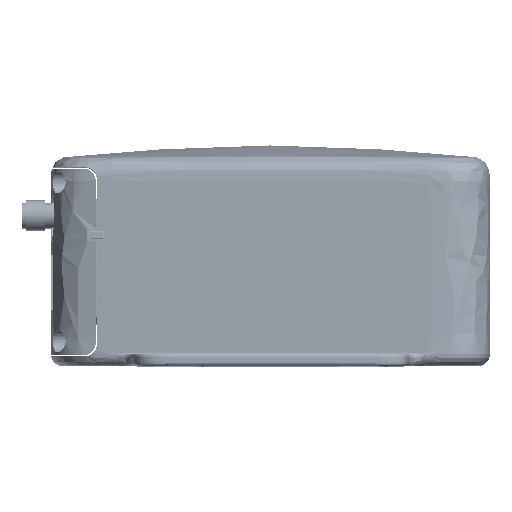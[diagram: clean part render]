
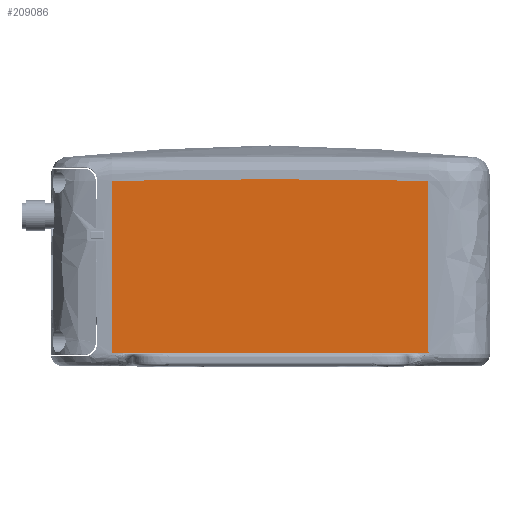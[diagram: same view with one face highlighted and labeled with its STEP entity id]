
A CAD part, top view. The second image highlights one B-rep face of the part: STEP entity #209086.
In plain terms, the highlighted planar face has unit normal (0, 0, 1).
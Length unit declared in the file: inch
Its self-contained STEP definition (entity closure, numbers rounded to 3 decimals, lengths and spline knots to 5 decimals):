
#9287 = EDGE_CURVE ( 'NONE', #165246, #239749, #161099, .T. ) ;
#21842 = EDGE_CURVE ( 'NONE', #154655, #88295, #293417, .T. ) ;
#21942 = B_SPLINE_CURVE_WITH_KNOTS ( 'NONE', 3,
 ( #393467, #431390, #186177, #434924, #306851, #187956, #310433, #65453 ),
 .UNSPECIFIED., .F., .F.,
 ( 4, 1, 1, 2, 4 ),
 ( 0., 0.27498, 0.41247, 0.48122, 0.54996 ),
 .UNSPECIFIED. ) ;
#55074 = DIRECTION ( 'NONE',  ( -1., 0., 0. ) ) ;
#60840 = EDGE_CURVE ( 'NONE', #502391, #506631, #79746, .T. ) ;
#65453 = CARTESIAN_POINT ( 'NONE',  ( -1.303, -0.74496, 1.185 ) ) ;
#74651 = CARTESIAN_POINT ( 'NONE',  ( -1.303, -0.74496, 1.185 ) ) ;
#79746 = B_SPLINE_CURVE_WITH_KNOTS ( 'NONE', 3,
 ( #323279, #159275, #251190, #373668 ),
 .UNSPECIFIED., .F., .F.,
 ( 4, 4 ),
 ( 0.11204, 0.93477 ),
 .UNSPECIFIED. ) ;
#84132 = ORIENTED_EDGE ( 'NONE', *, *, #493383, .T. ) ;
#88295 = VERTEX_POINT ( 'NONE', #253053 ) ;
#99539 = CARTESIAN_POINT ( 'NONE',  ( 1.29789, -0.74292, 1.185 ) ) ;
#101279 = CARTESIAN_POINT ( 'NONE',  ( 1.29377, -0.74112, 1.185 ) ) ;
#106534 = DIRECTION ( 'NONE',  ( 1., 0., 0. ) ) ;
#108099 = CARTESIAN_POINT ( 'NONE',  ( 1.29, -0.2729, 1.185 ) ) ;
#115582 = CARTESIAN_POINT ( 'NONE',  ( -0.37409, 0.67274, 1.185 ) ) ;
#122365 = EDGE_CURVE ( 'NONE', #88295, #502391, #435655, .T. ) ;
#132390 = CARTESIAN_POINT ( 'NONE',  ( -1.79, 0.85, 1.185 ) ) ;
#151179 = CARTESIAN_POINT ( 'NONE',  ( 1.29, 0.65951, 1.185 ) ) ;
#154655 = VERTEX_POINT ( 'NONE', #528500 ) ;
#159275 = CARTESIAN_POINT ( 'NONE',  ( -1.29, 0.19332, 1.185 ) ) ;
#161099 = LINE ( 'NONE', #439925, #457538 ) ;
#165246 = VERTEX_POINT ( 'NONE', #74651 ) ;
#181605 = ORIENTED_EDGE ( 'NONE', *, *, #9287, .T. ) ;
#186177 = CARTESIAN_POINT ( 'NONE',  ( -1.29376, -0.74112, 1.185 ) ) ;
#187956 = CARTESIAN_POINT ( 'NONE',  ( -1.30128, -0.74431, 1.185 ) ) ;
#209086 = ADVANCED_FACE ( 'NONE', ( #269284 ), #453268, .F. ) ;
#223837 = CARTESIAN_POINT ( 'NONE',  ( 1.30131, -0.74432, 1.185 ) ) ;
#229221 = CARTESIAN_POINT ( 'NONE',  ( 1.29124, -0.73985, 1.185 ) ) ;
#231794 = CARTESIAN_POINT ( 'NONE',  ( 1.303, -0.74496, 1.185 ) ) ;
#239749 = VERTEX_POINT ( 'NONE', #231794 ) ;
#240076 = CARTESIAN_POINT ( 'NONE',  ( -1.29, 0.65953, 1.185 ) ) ;
#251190 = CARTESIAN_POINT ( 'NONE',  ( -1.29, -0.2729, 1.185 ) ) ;
#253053 = CARTESIAN_POINT ( 'NONE',  ( 1.29, 0.65951, 1.185 ) ) ;
#265184 = CARTESIAN_POINT ( 'NONE',  ( 1.29991, -0.74375, 1.185 ) ) ;
#269284 = FACE_OUTER_BOUND ( 'NONE', #345341, .T. ) ;
#270603 = AXIS2_PLACEMENT_3D ( 'NONE', #132390, #503690, #55074 ) ;
#271825 = EDGE_CURVE ( 'NONE', #239749, #154655, #391827, .T. ) ;
#272016 = CARTESIAN_POINT ( 'NONE',  ( 1.29, -0.73911, 1.185 ) ) ;
#279546 = CARTESIAN_POINT ( 'NONE',  ( 1.04682, 0.66392, 1.185 ) ) ;
#283112 = CARTESIAN_POINT ( 'NONE',  ( 0.19122, 0.67239, 1.185 ) ) ;
#293417 = B_SPLINE_CURVE_WITH_KNOTS ( 'NONE', 3,
 ( #272016, #108099, #398260, #151179 ),
 .UNSPECIFIED., .F., .F.,
 ( 4, 4 ),
 ( 0.06523, 0.88795 ),
 .UNSPECIFIED. ) ;
#306851 = CARTESIAN_POINT ( 'NONE',  ( -1.29988, -0.74374, 1.185 ) ) ;
#310433 = CARTESIAN_POINT ( 'NONE',  ( -1.30225, -0.7447, 1.185 ) ) ;
#323279 = CARTESIAN_POINT ( 'NONE',  ( -1.29, 0.65953, 1.185 ) ) ;
#326327 = CARTESIAN_POINT ( 'NONE',  ( -0.80409, 0.66834, 1.185 ) ) ;
#345341 = EDGE_LOOP ( 'NONE', ( #84132, #181605, #458390, #439645, #373775, #429776 ) ) ;
#348044 = CARTESIAN_POINT ( 'NONE',  ( 1.303, -0.74496, 1.185 ) ) ;
#373668 = CARTESIAN_POINT ( 'NONE',  ( -1.29, -0.73911, 1.185 ) ) ;
#373775 = ORIENTED_EDGE ( 'NONE', *, *, #122365, .T. ) ;
#391827 = B_SPLINE_CURVE_WITH_KNOTS ( 'NONE', 3,
 ( #348044, #512075, #223837, #265184, #99539, #101279, #229221, #517441 ),
 .UNSPECIFIED., .F., .F.,
 ( 4, 2, 1, 1, 4 ),
 ( 0.44892, 0.51781, 0.58669, 0.72446, 1. ),
 .UNSPECIFIED. ) ;
#393467 = CARTESIAN_POINT ( 'NONE',  ( -1.29, -0.73911, 1.185 ) ) ;
#398260 = CARTESIAN_POINT ( 'NONE',  ( 1.29, 0.1933, 1.185 ) ) ;
#405832 = CARTESIAN_POINT ( 'NONE',  ( 0.70318, 0.66887, 1.185 ) ) ;
#429776 = ORIENTED_EDGE ( 'NONE', *, *, #60840, .T. ) ;
#431390 = CARTESIAN_POINT ( 'NONE',  ( -1.29124, -0.73984, 1.185 ) ) ;
#434924 = CARTESIAN_POINT ( 'NONE',  ( -1.29787, -0.74291, 1.185 ) ) ;
#435655 = B_SPLINE_CURVE_WITH_KNOTS ( 'NONE', 3,
 ( #447252, #279546, #405832, #488657, #283112, #490408, #486852, #115582, #326327, #240076 ),
 .UNSPECIFIED., .F., .F.,
 ( 4, 1, 1, 2, 2, 4 ),
 ( 0., 0.25, 0.375, 0.4375, 0.5, 1. ),
 .UNSPECIFIED. ) ;
#439645 = ORIENTED_EDGE ( 'NONE', *, *, #21842, .T. ) ;
#439925 = CARTESIAN_POINT ( 'NONE',  ( 1.31172, -0.745, 1.185 ) ) ;
#447252 = CARTESIAN_POINT ( 'NONE',  ( 1.29, 0.65951, 1.185 ) ) ;
#453268 = PLANE ( 'NONE',  #270603 ) ;
#454114 = CARTESIAN_POINT ( 'NONE',  ( -1.29, -0.73911, 1.185 ) ) ;
#457538 = VECTOR ( 'NONE', #106534, 39.37008 ) ;
#458390 = ORIENTED_EDGE ( 'NONE', *, *, #271825, .T. ) ;
#486852 = CARTESIAN_POINT ( 'NONE',  ( 0.04676, 0.67274, 1.185 ) ) ;
#488657 = CARTESIAN_POINT ( 'NONE',  ( 0.33926, 0.67177, 1.185 ) ) ;
#490408 = CARTESIAN_POINT ( 'NONE',  ( 0.09429, 0.67267, 1.185 ) ) ;
#493383 = EDGE_CURVE ( 'NONE', #506631, #165246, #21942, .T. ) ;
#502391 = VERTEX_POINT ( 'NONE', #526006 ) ;
#503690 = DIRECTION ( 'NONE',  ( 0., 0., -1. ) ) ;
#506631 = VERTEX_POINT ( 'NONE', #454114 ) ;
#512075 = CARTESIAN_POINT ( 'NONE',  ( 1.30225, -0.74471, 1.185 ) ) ;
#517441 = CARTESIAN_POINT ( 'NONE',  ( 1.29, -0.73911, 1.185 ) ) ;
#526006 = CARTESIAN_POINT ( 'NONE',  ( -1.29, 0.65953, 1.185 ) ) ;
#528500 = CARTESIAN_POINT ( 'NONE',  ( 1.29, -0.73911, 1.185 ) ) ;
